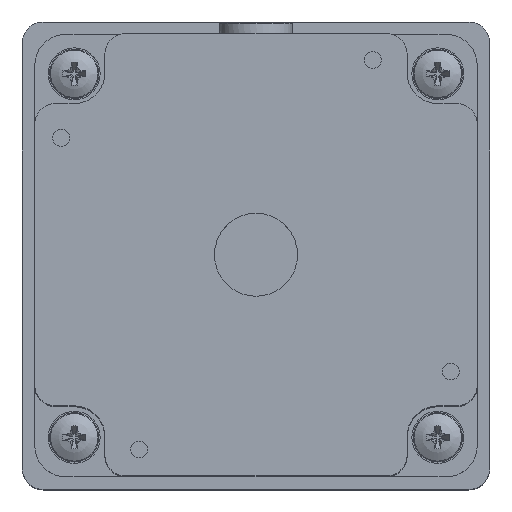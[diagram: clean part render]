
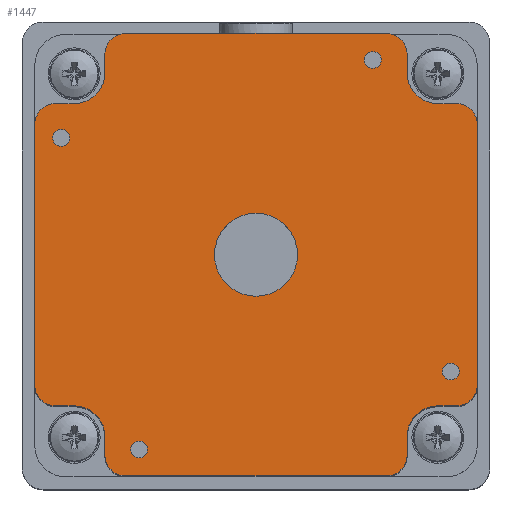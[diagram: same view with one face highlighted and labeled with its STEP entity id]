
A CAD part, top view. The second image highlights one B-rep face of the part: STEP entity #1447.
In plain terms, the highlighted planar face has unit normal (0, 0, 1).
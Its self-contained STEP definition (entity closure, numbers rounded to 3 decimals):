
#1447=ADVANCED_FACE('',(#9781,#9783,#9785,#9787,#9789,#9791),#9793,.T.);
#9781=FACE_BOUND('',#9782,.T.);
#9782=EDGE_LOOP('',(#17293,#17294,#17295,#17296,#17297,#17298,#17299,#17300,#17301,
#17302,#17303,#17304,#17305,#17306,#17307,#17308,#17309,#17310,#17311,#17312,#17313,
#17314,#17315,#17316));
#9783=FACE_BOUND('',#9784,.T.);
#9784=EDGE_LOOP('',(#17317));
#9785=FACE_BOUND('',#9786,.T.);
#9786=EDGE_LOOP('',(#17318));
#9787=FACE_BOUND('',#9788,.T.);
#9788=EDGE_LOOP('',(#17319));
#9789=FACE_BOUND('',#9790,.T.);
#9790=EDGE_LOOP('',(#17320));
#9791=FACE_BOUND('',#9792,.T.);
#9792=EDGE_LOOP('',(#17321));
#9793=PLANE('',#9794);
#9794=AXIS2_PLACEMENT_3D('',#9795,#9796,#9797);
#9795=CARTESIAN_POINT('',(0.,0.,113.));
#9796=DIRECTION('',(0.,0.,1.));
#9797=DIRECTION('',(1.,0.,0.));
#17293=ORIENTED_EDGE('',*,*,#21703,.F.);
#17294=ORIENTED_EDGE('',*,*,#21701,.T.);
#17295=ORIENTED_EDGE('',*,*,#21699,.F.);
#17296=ORIENTED_EDGE('',*,*,#21697,.T.);
#17297=ORIENTED_EDGE('',*,*,#21695,.T.);
#17298=ORIENTED_EDGE('',*,*,#21693,.T.);
#17299=ORIENTED_EDGE('',*,*,#21691,.F.);
#17300=ORIENTED_EDGE('',*,*,#21689,.T.);
#17301=ORIENTED_EDGE('',*,*,#21735,.F.);
#17302=ORIENTED_EDGE('',*,*,#21733,.T.);
#17303=ORIENTED_EDGE('',*,*,#21731,.T.);
#17304=ORIENTED_EDGE('',*,*,#21729,.T.);
#17305=ORIENTED_EDGE('',*,*,#21727,.F.);
#17306=ORIENTED_EDGE('',*,*,#21725,.T.);
#17307=ORIENTED_EDGE('',*,*,#21723,.F.);
#17308=ORIENTED_EDGE('',*,*,#21721,.T.);
#17309=ORIENTED_EDGE('',*,*,#21719,.T.);
#17310=ORIENTED_EDGE('',*,*,#21717,.T.);
#17311=ORIENTED_EDGE('',*,*,#21715,.F.);
#17312=ORIENTED_EDGE('',*,*,#21713,.T.);
#17313=ORIENTED_EDGE('',*,*,#21711,.F.);
#17314=ORIENTED_EDGE('',*,*,#21709,.T.);
#17315=ORIENTED_EDGE('',*,*,#21707,.T.);
#17316=ORIENTED_EDGE('',*,*,#21705,.T.);
#17317=ORIENTED_EDGE('',*,*,#22201,.T.);
#17318=ORIENTED_EDGE('',*,*,#22202,.T.);
#17319=ORIENTED_EDGE('',*,*,#22203,.T.);
#17320=ORIENTED_EDGE('',*,*,#22204,.T.);
#17321=ORIENTED_EDGE('',*,*,#22205,.T.);
#21689=EDGE_CURVE('',#24380,#24378,#24381,.T.);
#21691=EDGE_CURVE('',#24380,#24383,#24384,.T.);
#21693=EDGE_CURVE('',#24386,#24383,#24387,.F.);
#21695=EDGE_CURVE('',#24389,#24386,#24390,.F.);
#21697=EDGE_CURVE('',#24392,#24389,#24393,.F.);
#21699=EDGE_CURVE('',#24392,#24395,#24396,.T.);
#21701=EDGE_CURVE('',#24398,#24395,#24399,.T.);
#21703=EDGE_CURVE('',#24398,#24401,#24402,.F.);
#21705=EDGE_CURVE('',#24404,#24401,#24405,.F.);
#21707=EDGE_CURVE('',#24407,#24404,#24408,.F.);
#21709=EDGE_CURVE('',#24410,#24407,#24411,.F.);
#21711=EDGE_CURVE('',#24410,#24413,#24414,.T.);
#21713=EDGE_CURVE('',#24416,#24413,#24417,.T.);
#21715=EDGE_CURVE('',#24416,#24419,#24420,.F.);
#21717=EDGE_CURVE('',#24422,#24419,#24423,.F.);
#21719=EDGE_CURVE('',#24425,#24422,#24426,.F.);
#21721=EDGE_CURVE('',#24428,#24425,#24429,.F.);
#21723=EDGE_CURVE('',#24428,#24431,#24432,.T.);
#21725=EDGE_CURVE('',#24434,#24431,#24435,.T.);
#21727=EDGE_CURVE('',#24434,#24437,#24438,.T.);
#21729=EDGE_CURVE('',#24440,#24437,#24441,.F.);
#21731=EDGE_CURVE('',#24443,#24440,#24444,.F.);
#21733=EDGE_CURVE('',#24446,#24443,#24447,.F.);
#21735=EDGE_CURVE('',#24446,#24378,#24449,.T.);
#22201=EDGE_CURVE('',#25380,#25380,#25381,.F.);
#22202=EDGE_CURVE('',#25382,#25382,#25383,.F.);
#22203=EDGE_CURVE('',#25384,#25384,#25385,.F.);
#22204=EDGE_CURVE('',#25386,#25386,#25387,.F.);
#22205=EDGE_CURVE('',#25388,#25388,#25389,.F.);
#24378=VERTEX_POINT('',#29381);
#24380=VERTEX_POINT('',#29385);
#24381=LINE('',#29386,#29387);
#24383=VERTEX_POINT('',#29392);
#24384=CIRCLE('',#29393,4.);
#24386=VERTEX_POINT('',#29400);
#24387=LINE('',#29401,#29402);
#24389=VERTEX_POINT('',#29407);
#24390=CIRCLE('',#29408,5.9);
#24392=VERTEX_POINT('',#29415);
#24393=LINE('',#29416,#29417);
#24395=VERTEX_POINT('',#29422);
#24396=CIRCLE('',#29423,4.);
#24398=VERTEX_POINT('',#29430);
#24399=LINE('',#29431,#29432);
#24401=VERTEX_POINT('',#29437);
#24402=CIRCLE('',#29438,4.);
#24404=VERTEX_POINT('',#29445);
#24405=LINE('',#29446,#29447);
#24407=VERTEX_POINT('',#29452);
#24408=CIRCLE('',#29453,5.9);
#24410=VERTEX_POINT('',#29460);
#24411=LINE('',#29461,#29462);
#24413=VERTEX_POINT('',#29467);
#24414=CIRCLE('',#29468,4.);
#24416=VERTEX_POINT('',#29475);
#24417=LINE('',#29476,#29477);
#24419=VERTEX_POINT('',#29482);
#24420=CIRCLE('',#29483,4.);
#24422=VERTEX_POINT('',#29490);
#24423=LINE('',#29491,#29492);
#24425=VERTEX_POINT('',#29497);
#24426=CIRCLE('',#29498,5.9);
#24428=VERTEX_POINT('',#29505);
#24429=LINE('',#29506,#29507);
#24431=VERTEX_POINT('',#29512);
#24432=CIRCLE('',#29513,4.);
#24434=VERTEX_POINT('',#29520);
#24435=LINE('',#29521,#29522);
#24437=VERTEX_POINT('',#29527);
#24438=CIRCLE('',#29528,4.);
#24440=VERTEX_POINT('',#29535);
#24441=LINE('',#29536,#29537);
#24443=VERTEX_POINT('',#29542);
#24444=CIRCLE('',#29543,5.9);
#24446=VERTEX_POINT('',#29550);
#24447=LINE('',#29551,#29552);
#24449=CIRCLE('',#29557,4.);
#25380=VERTEX_POINT('',#31682);
#25381=CIRCLE('',#31683,1.621);
#25382=VERTEX_POINT('',#31687);
#25383=CIRCLE('',#31688,1.621);
#25384=VERTEX_POINT('',#31692);
#25385=CIRCLE('',#31693,1.621);
#25386=VERTEX_POINT('',#31697);
#25387=CIRCLE('',#31698,1.621);
#25388=VERTEX_POINT('',#31702);
#25389=CIRCLE('',#31703,8.);
#29381=CARTESIAN_POINT('',(-25.1,42.6,113.));
#29385=CARTESIAN_POINT('',(25.1,42.6,113.));
#29386=CARTESIAN_POINT('',(25.1,42.6,113.));
#29387=VECTOR('',#29388,1.);
#29388=DIRECTION('',(-1.,0.,0.));
#29392=CARTESIAN_POINT('',(29.1,38.6,113.));
#29393=AXIS2_PLACEMENT_3D('',#29394,#29395,#29396);
#29394=CARTESIAN_POINT('',(25.1,38.6,113.));
#29395=DIRECTION('',(0.,0.,-1.));
#29396=DIRECTION('',(0.,1.,0.));
#29400=CARTESIAN_POINT('',(29.1,35.,113.));
#29401=CARTESIAN_POINT('',(29.1,38.6,113.));
#29402=VECTOR('',#29403,1.);
#29403=DIRECTION('',(0.,-1.,0.));
#29407=CARTESIAN_POINT('',(35.,29.1,113.));
#29408=AXIS2_PLACEMENT_3D('',#29409,#29410,#29411);
#29409=CARTESIAN_POINT('',(35.,35.,113.));
#29410=DIRECTION('',(0.,0.,1.));
#29411=DIRECTION('',(-1.,0.,0.));
#29415=CARTESIAN_POINT('',(38.6,29.1,113.));
#29416=CARTESIAN_POINT('',(35.,29.1,113.));
#29417=VECTOR('',#29418,1.);
#29418=DIRECTION('',(1.,0.,0.));
#29422=CARTESIAN_POINT('',(42.6,25.1,113.));
#29423=AXIS2_PLACEMENT_3D('',#29424,#29425,#29426);
#29424=CARTESIAN_POINT('',(38.6,25.1,113.));
#29425=DIRECTION('',(0.,0.,-1.));
#29426=DIRECTION('',(0.,1.,0.));
#29430=CARTESIAN_POINT('',(42.6,-25.1,113.));
#29431=CARTESIAN_POINT('',(42.6,-25.1,113.));
#29432=VECTOR('',#29433,1.);
#29433=DIRECTION('',(0.,1.,0.));
#29437=CARTESIAN_POINT('',(38.6,-29.1,113.));
#29438=AXIS2_PLACEMENT_3D('',#29439,#29440,#29441);
#29439=CARTESIAN_POINT('',(38.6,-25.1,113.));
#29440=DIRECTION('',(0.,0.,1.));
#29441=DIRECTION('',(0.,-1.,0.));
#29445=CARTESIAN_POINT('',(35.,-29.1,113.));
#29446=CARTESIAN_POINT('',(38.6,-29.1,113.));
#29447=VECTOR('',#29448,1.);
#29448=DIRECTION('',(-1.,0.,0.));
#29452=CARTESIAN_POINT('',(29.1,-35.,113.));
#29453=AXIS2_PLACEMENT_3D('',#29454,#29455,#29456);
#29454=CARTESIAN_POINT('',(35.,-35.,113.));
#29455=DIRECTION('',(0.,0.,1.));
#29456=DIRECTION('',(0.,1.,0.));
#29460=CARTESIAN_POINT('',(29.1,-38.6,113.));
#29461=CARTESIAN_POINT('',(29.1,-35.,113.));
#29462=VECTOR('',#29463,1.);
#29463=DIRECTION('',(0.,-1.,0.));
#29467=CARTESIAN_POINT('',(25.1,-42.6,113.));
#29468=AXIS2_PLACEMENT_3D('',#29469,#29470,#29471);
#29469=CARTESIAN_POINT('',(25.1,-38.6,113.));
#29470=DIRECTION('',(0.,0.,-1.));
#29471=DIRECTION('',(1.,0.,0.));
#29475=CARTESIAN_POINT('',(-25.1,-42.6,113.));
#29476=CARTESIAN_POINT('',(-25.1,-42.6,113.));
#29477=VECTOR('',#29478,1.);
#29478=DIRECTION('',(1.,0.,0.));
#29482=CARTESIAN_POINT('',(-29.1,-38.6,113.));
#29483=AXIS2_PLACEMENT_3D('',#29484,#29485,#29486);
#29484=CARTESIAN_POINT('',(-25.1,-38.6,113.));
#29485=DIRECTION('',(0.,0.,1.));
#29486=DIRECTION('',(-1.,0.,0.));
#29490=CARTESIAN_POINT('',(-29.1,-35.,113.));
#29491=CARTESIAN_POINT('',(-29.1,-38.6,113.));
#29492=VECTOR('',#29493,1.);
#29493=DIRECTION('',(0.,1.,0.));
#29497=CARTESIAN_POINT('',(-35.,-29.1,113.));
#29498=AXIS2_PLACEMENT_3D('',#29499,#29500,#29501);
#29499=CARTESIAN_POINT('',(-35.,-35.,113.));
#29500=DIRECTION('',(0.,0.,1.));
#29501=DIRECTION('',(1.,0.,0.));
#29505=CARTESIAN_POINT('',(-38.6,-29.1,113.));
#29506=CARTESIAN_POINT('',(-35.,-29.1,113.));
#29507=VECTOR('',#29508,1.);
#29508=DIRECTION('',(-1.,0.,0.));
#29512=CARTESIAN_POINT('',(-42.6,-25.1,113.));
#29513=AXIS2_PLACEMENT_3D('',#29514,#29515,#29516);
#29514=CARTESIAN_POINT('',(-38.6,-25.1,113.));
#29515=DIRECTION('',(0.,0.,-1.));
#29516=DIRECTION('',(0.,-1.,0.));
#29520=CARTESIAN_POINT('',(-42.6,25.1,113.));
#29521=CARTESIAN_POINT('',(-42.6,25.1,113.));
#29522=VECTOR('',#29523,1.);
#29523=DIRECTION('',(0.,-1.,0.));
#29527=CARTESIAN_POINT('',(-38.6,29.1,113.));
#29528=AXIS2_PLACEMENT_3D('',#29529,#29530,#29531);
#29529=CARTESIAN_POINT('',(-38.6,25.1,113.));
#29530=DIRECTION('',(0.,0.,-1.));
#29531=DIRECTION('',(-1.,0.,0.));
#29535=CARTESIAN_POINT('',(-35.,29.1,113.));
#29536=CARTESIAN_POINT('',(-38.6,29.1,113.));
#29537=VECTOR('',#29538,1.);
#29538=DIRECTION('',(1.,0.,0.));
#29542=CARTESIAN_POINT('',(-29.1,35.,113.));
#29543=AXIS2_PLACEMENT_3D('',#29544,#29545,#29546);
#29544=CARTESIAN_POINT('',(-35.,35.,113.));
#29545=DIRECTION('',(0.,0.,1.));
#29546=DIRECTION('',(0.,-1.,0.));
#29550=CARTESIAN_POINT('',(-29.1,38.6,113.));
#29551=CARTESIAN_POINT('',(-29.1,35.,113.));
#29552=VECTOR('',#29553,1.);
#29553=DIRECTION('',(0.,1.,0.));
#29557=AXIS2_PLACEMENT_3D('',#29558,#29559,#29560);
#29558=CARTESIAN_POINT('',(-25.1,38.6,113.));
#29559=DIRECTION('',(0.,0.,-1.));
#29560=DIRECTION('',(-1.,0.,0.));
#31682=CARTESIAN_POINT('',(24.121,37.5,113.));
#31683=AXIS2_PLACEMENT_3D('',#31684,#31685,#31686);
#31684=CARTESIAN_POINT('',(22.5,37.5,113.));
#31685=DIRECTION('',(0.,0.,1.));
#31686=DIRECTION('',(1.,0.,0.));
#31687=CARTESIAN_POINT('',(-35.879,22.5,113.));
#31688=AXIS2_PLACEMENT_3D('',#31689,#31690,#31691);
#31689=CARTESIAN_POINT('',(-37.5,22.5,113.));
#31690=DIRECTION('',(0.,0.,1.));
#31691=DIRECTION('',(1.,0.,0.));
#31692=CARTESIAN_POINT('',(-20.879,-37.5,113.));
#31693=AXIS2_PLACEMENT_3D('',#31694,#31695,#31696);
#31694=CARTESIAN_POINT('',(-22.5,-37.5,113.));
#31695=DIRECTION('',(0.,0.,1.));
#31696=DIRECTION('',(1.,0.,0.));
#31697=CARTESIAN_POINT('',(39.121,-22.5,113.));
#31698=AXIS2_PLACEMENT_3D('',#31699,#31700,#31701);
#31699=CARTESIAN_POINT('',(37.5,-22.5,113.));
#31700=DIRECTION('',(0.,0.,1.));
#31701=DIRECTION('',(1.,0.,0.));
#31702=CARTESIAN_POINT('',(8.,0.,113.));
#31703=AXIS2_PLACEMENT_3D('',#31704,#31705,#31706);
#31704=CARTESIAN_POINT('',(0.,0.,113.));
#31705=DIRECTION('',(0.,0.,1.));
#31706=DIRECTION('',(1.,0.,0.));
